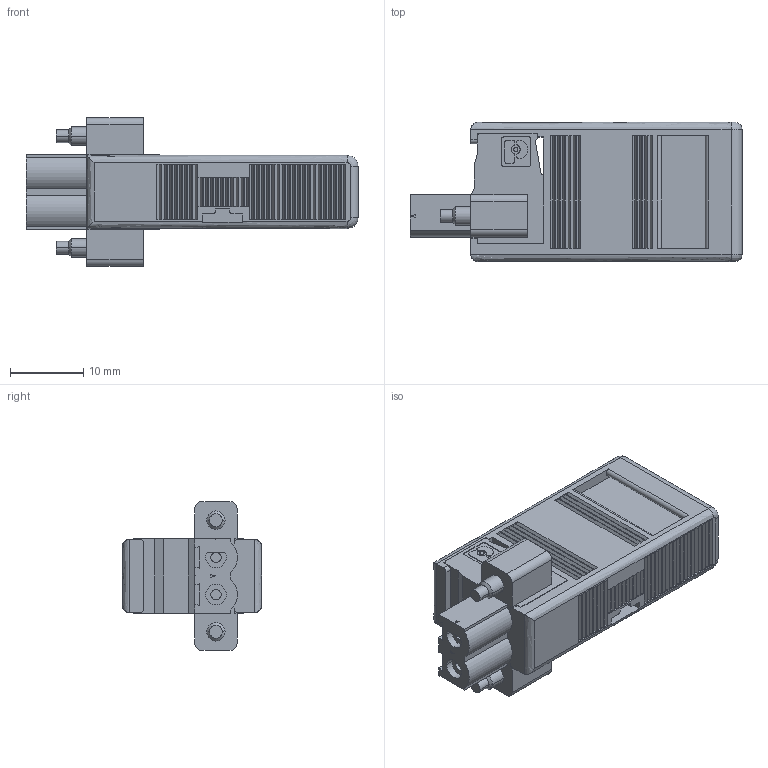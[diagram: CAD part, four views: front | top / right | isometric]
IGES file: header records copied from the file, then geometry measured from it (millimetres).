
Start section:  PTC IGES file: cu_conn_crio_2_pos_cmbcn_tb.igs
Global section: file name: cu_conn_crio_2_pos_cmbcn_tb.igs; native system: Pro/ENGINEER by Parametric Technology Corporation; preprocessor: 2006080; author: jpearson; organization: Unknown; date: 070611.105154; units: inch
Bounding box: 45.3 x 19 x 20.32 mm (x, y, z)
Volume: 7093.7 mm3; surface area: 4277.9 mm2
Topology: 1 solids, 1 shells, 670 faces, 1622 edges, 1068 vertices
Faces by surface type: bspline 551, revolution 119
